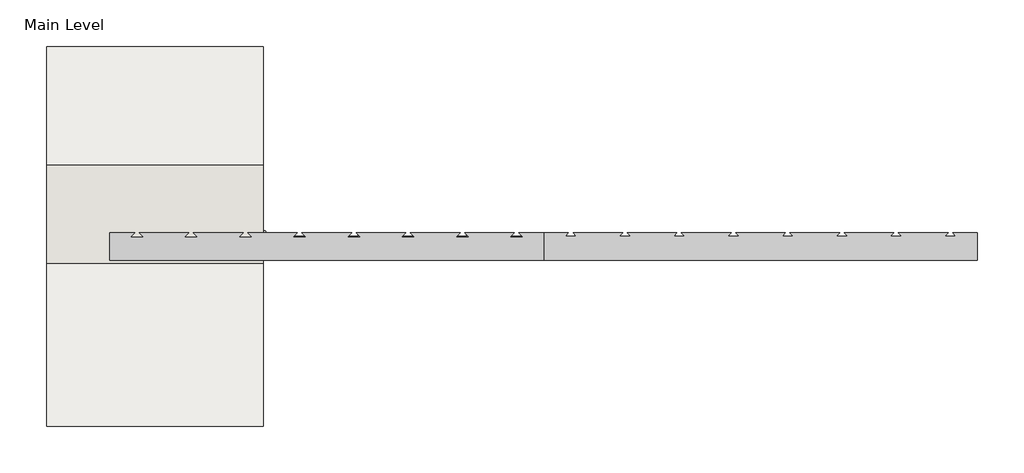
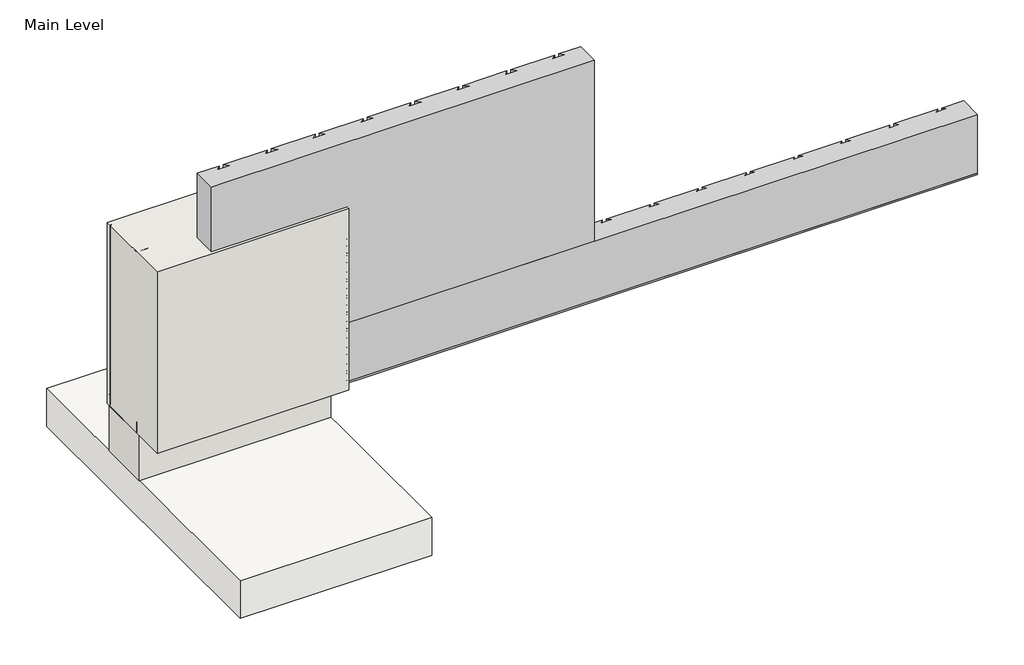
# One storey, incomplete: 20 proxies, 2 walls, 1 slab.
"""IFC4 building model written with IfcOpenShell, lengths in millimetres."""

from ifc_helpers import new_model, si_unit, frame, origin, origin_with_axes, place, context, project, spatial, polyline, outline, extrude, transform, mapped, element, save
from components import generic_models_31547c53, generic_models_0bbfdc8f, generic_models_1e1ad44f, generic_models_7dd17a53, generic_models_441de798, generic_models_9d0e7a2a, generic_models_a6b5edb7, generic_models_03ec6e0e, proxy_998bcb27, proxy_b027fc18, wood_blocking_c9818c35

model = new_model("IFC4")

# Units and contexts
model_context = context("Model", 3, world=origin())
ifc_project = project(units=[si_unit("LENGTHUNIT", "METRE", prefix="MILLI")], contexts=[model_context])

# Site, building, storey
site = spatial("IfcSite", under=ifc_project)
building = spatial("IfcBuilding", under=site)
storey = spatial("IfcBuildingStorey", under=building, Name="Main Level", Elevation=0.0)

# Proxies
placement = place(None, origin())
generic_models_shape = generic_models_31547c53(model_context)
element("IfcBuildingElementProxy", 1, Name="Durabond Generic Model Sealant Vent : Durabond Generic Model Sealant Vent", ObjectType="Durabond Generic Model Sealant Vent : Durabond Generic Model Sealant Vent", at=placement, inside=storey, context=model_context, shape_type="MappedRepresentation", body=[
    mapped(generic_models_shape, transform((26865.4101773, 546.8432813, 8.5594788), x_axis=(1.0, 0.0, 0.0), y_axis=(0.0, 0.08715574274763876, -0.9961946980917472), z_axis=(0.0, 0.9961946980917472, 0.08715574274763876))),
])
generic_models_2_shape = generic_models_0bbfdc8f(model_context)
generic_models_3_shape = generic_models_1e1ad44f(model_context)
generic_models_4_shape = generic_models_7dd17a53(model_context)
generic_models_5_shape = generic_models_441de798(model_context)
element("IfcBuildingElementProxy", 2, Name="CRAi Generic Model Mesh Piece Face Based : CRAi Generic Model Mesh Piece Face Based", ObjectType="CRAi Generic Model Mesh Piece Face Based : CRAi Generic Model Mesh Piece Face Based", at=placement, inside=storey, context=model_context, shape_type="MappedRepresentation", body=[
    mapped(generic_models_2_shape, transform((26933.6726773, 541.9066297, 261.6963215), x_axis=(-1.0, 0.0, 0.0), y_axis=(0.0, 0.0, -1.0), z_axis=(0.0, -1.0, 0.0))),
    mapped(generic_models_3_shape, transform((26933.6726773, 541.9066297, 261.6963215), x_axis=(-1.0, 0.0, 0.0), y_axis=(0.0, 0.0, -1.0), z_axis=(0.0, -1.0, 0.0))),
    mapped(generic_models_4_shape, transform((26933.6726773, 541.9066297, 261.6963215), x_axis=(-1.0, 0.0, 0.0), y_axis=(0.0, 0.0, -1.0), z_axis=(0.0, -1.0, 0.0))),
    mapped(generic_models_5_shape, transform((26933.6726773, 541.9066297, 261.6963215), x_axis=(-1.0, 0.0, 0.0), y_axis=(0.0, 0.0, -1.0), z_axis=(0.0, -1.0, 0.0))),
])
generic_models_6_shape = generic_models_9d0e7a2a(model_context)
element("IfcBuildingElementProxy", 3, Name="CRAi Generic Model Metal Stud Array : CRAi Generic Model Metal Stud Array", ObjectType="CRAi Generic Model Metal Stud Array : CRAi Generic Model Metal Stud Array", at=placement, inside=storey, context=model_context, shape_type="MappedRepresentation", body=[
    mapped(generic_models_6_shape, transform((26692.3726773, 726.0566297, 6.35), x_axis=(-1.0, 0.0, 0.0), y_axis=(0.0, -1.0, 0.0), z_axis=(0.0, 0.0, 1.0))),
])
generic_models_7_shape = generic_models_a6b5edb7(model_context)
element("IfcBuildingElementProxy", 4, Name="Durabond Generic Model Insulation Adhesive Flat : Durabond Generic Model Insulation Adhesive Flat", ObjectType="Durabond Generic Model Insulation Adhesive Flat : Durabond Generic Model Insulation Adhesive Flat", at=placement, inside=storey, context=model_context, shape_type="MappedRepresentation", body=[
    mapped(generic_models_7_shape, transform((26705.0726773, 627.6316297, 88.9), x_axis=(1.0, 0.0, 0.0), y_axis=(0.0, 1.0, 0.0), z_axis=(0.0, 0.0, 1.0))),
])
element("IfcBuildingElementProxy", 5, Name="Durabond Generic Model Insulation Adhesive Flat : Durabond Generic Model Insulation Adhesive Flat", ObjectType="Durabond Generic Model Insulation Adhesive Flat : Durabond Generic Model Insulation Adhesive Flat", at=placement, inside=storey, context=model_context, shape_type="MappedRepresentation", body=[
    mapped(generic_models_7_shape, transform((26781.2726773, 627.6316297, 88.9), x_axis=(1.0, 0.0, 0.0), y_axis=(0.0, 1.0, 0.0), z_axis=(0.0, 0.0, 1.0))),
])
element("IfcBuildingElementProxy", 6, Name="Durabond Generic Model Insulation Adhesive Flat : Durabond Generic Model Insulation Adhesive Flat", ObjectType="Durabond Generic Model Insulation Adhesive Flat : Durabond Generic Model Insulation Adhesive Flat", at=placement, inside=storey, context=model_context, shape_type="MappedRepresentation", body=[
    mapped(generic_models_7_shape, transform((26857.4726773, 627.6316297, 88.9), x_axis=(1.0, 0.0, 0.0), y_axis=(0.0, 1.0, 0.0), z_axis=(0.0, 0.0, 1.0))),
])
element("IfcBuildingElementProxy", 7, Name="Durabond Generic Model Insulation Adhesive Flat : Durabond Generic Model Insulation Adhesive Flat", ObjectType="Durabond Generic Model Insulation Adhesive Flat : Durabond Generic Model Insulation Adhesive Flat", at=placement, inside=storey, context=model_context, shape_type="MappedRepresentation", body=[
    mapped(generic_models_7_shape, transform((26933.6726773, 627.6316297, 88.9), x_axis=(1.0, 0.0, 0.0), y_axis=(0.0, 1.0, 0.0), z_axis=(0.0, 0.0, 1.0))),
])
element("IfcBuildingElementProxy", 8, Name="Durabond Generic Model Insulation Adhesive Flat : Durabond Generic Model Insulation Adhesive Flat", ObjectType="Durabond Generic Model Insulation Adhesive Flat : Durabond Generic Model Insulation Adhesive Flat", at=placement, inside=storey, context=model_context, shape_type="MappedRepresentation", body=[
    mapped(generic_models_7_shape, transform((27009.8726773, 627.6316297, 88.9), x_axis=(1.0, 0.0, 0.0), y_axis=(0.0, 1.0, 0.0), z_axis=(0.0, 0.0, 1.0))),
])
element("IfcBuildingElementProxy", 9, Name="Durabond Generic Model Insulation Adhesive Flat : Durabond Generic Model Insulation Adhesive Flat", ObjectType="Durabond Generic Model Insulation Adhesive Flat : Durabond Generic Model Insulation Adhesive Flat", at=placement, inside=storey, context=model_context, shape_type="MappedRepresentation", body=[
    mapped(generic_models_7_shape, transform((27086.0726773, 627.6316297, 88.9), x_axis=(1.0, 0.0, 0.0), y_axis=(0.0, 1.0, 0.0), z_axis=(0.0, 0.0, 1.0))),
])
generic_models_8_shape = generic_models_03ec6e0e(model_context)
element("IfcBuildingElementProxy", 10, Name="CRAi Generic Model Drywall Screw : CRAi Generic Model Drywall Screw", ObjectType="CRAi Generic Model Drywall Screw : CRAi Generic Model Drywall Screw", at=placement, inside=storey, context=model_context, shape_type="MappedRepresentation", body=[
    mapped(generic_models_8_shape, transform((26508.2226773, 633.9816297, 25.4), x_axis=(1.0, 0.0, 0.0), y_axis=(0.0, 0.0, 1.0), z_axis=(0.0, -1.0, 0.0))),
])
element("IfcBuildingElementProxy", 11, Name="CRAi Generic Model Drywall Screw : CRAi Generic Model Drywall Screw", ObjectType="CRAi Generic Model Drywall Screw : CRAi Generic Model Drywall Screw", at=placement, inside=storey, context=model_context, shape_type="MappedRepresentation", body=[
    mapped(generic_models_8_shape, transform((26508.2226773, 633.9816297, 215.9), x_axis=(1.0, 0.0, 0.0), y_axis=(0.0, 0.0, 1.0), z_axis=(0.0, -1.0, 0.0))),
])
element("IfcBuildingElementProxy", 12, Name="CRAi Generic Model Drywall Screw : CRAi Generic Model Drywall Screw", ObjectType="CRAi Generic Model Drywall Screw : CRAi Generic Model Drywall Screw", at=placement, inside=storey, context=model_context, shape_type="MappedRepresentation", body=[
    mapped(generic_models_8_shape, transform((26508.2226773, 633.9816297, 406.4), x_axis=(1.0, 0.0, 0.0), y_axis=(0.0, 0.0, 1.0), z_axis=(0.0, -1.0, 0.0))),
])
element("IfcBuildingElementProxy", 13, Name="CRAi Generic Model Drywall Screw : CRAi Generic Model Drywall Screw", ObjectType="CRAi Generic Model Drywall Screw : CRAi Generic Model Drywall Screw", at=placement, inside=storey, context=model_context, shape_type="MappedRepresentation", body=[
    mapped(generic_models_8_shape, transform((26508.2226773, 633.9816297, 596.9), x_axis=(1.0, 0.0, 0.0), y_axis=(0.0, 0.0, 1.0), z_axis=(0.0, -1.0, 0.0))),
])
element("IfcBuildingElementProxy", 14, Name="CRAi Generic Model Drywall Screw : CRAi Generic Model Drywall Screw", ObjectType="CRAi Generic Model Drywall Screw : CRAi Generic Model Drywall Screw", at=placement, inside=storey, context=model_context, shape_type="MappedRepresentation", body=[
    mapped(generic_models_8_shape, transform((26876.5226773, 633.9816297, 25.4), x_axis=(1.0, 0.0, 0.0), y_axis=(0.0, 0.0, 1.0), z_axis=(0.0, -1.0, 0.0))),
])
element("IfcBuildingElementProxy", 15, Name="CRAi Generic Model Drywall Screw : CRAi Generic Model Drywall Screw", ObjectType="CRAi Generic Model Drywall Screw : CRAi Generic Model Drywall Screw", at=placement, inside=storey, context=model_context, shape_type="MappedRepresentation", body=[
    mapped(generic_models_8_shape, transform((26876.5226773, 633.9816297, 215.9), x_axis=(1.0, 0.0, 0.0), y_axis=(0.0, 0.0, 1.0), z_axis=(0.0, -1.0, 0.0))),
])
element("IfcBuildingElementProxy", 16, Name="CRAi Generic Model Drywall Screw : CRAi Generic Model Drywall Screw", ObjectType="CRAi Generic Model Drywall Screw : CRAi Generic Model Drywall Screw", at=placement, inside=storey, context=model_context, shape_type="MappedRepresentation", body=[
    mapped(generic_models_8_shape, transform((26876.5226773, 633.9816297, 406.4), x_axis=(1.0, 0.0, 0.0), y_axis=(0.0, 0.0, 1.0), z_axis=(0.0, -1.0, 0.0))),
])
element("IfcBuildingElementProxy", 17, Name="CRAi Generic Model Drywall Screw : CRAi Generic Model Drywall Screw", ObjectType="CRAi Generic Model Drywall Screw : CRAi Generic Model Drywall Screw", at=placement, inside=storey, context=model_context, shape_type="MappedRepresentation", body=[
    mapped(generic_models_8_shape, transform((26876.5226773, 633.9816297, 596.9), x_axis=(1.0, 0.0, 0.0), y_axis=(0.0, 0.0, 1.0), z_axis=(0.0, -1.0, 0.0))),
])
proxy_shape = proxy_998bcb27(model_context)
element("IfcBuildingElementProxy", 18, Name="Durabond Generic Model Flexlite Insulation Board : 3\"", ObjectType="Durabond Generic Model Flexlite Insulation Board : 3\"", at=placement, inside=storey, context=model_context, shape_type="MappedRepresentation", body=[
    mapped(proxy_shape, transform((27276.5726773, 624.4566297, 523.392643), x_axis=(1.0, 0.0, 0.0), y_axis=(0.0, 0.0, 1.0), z_axis=(0.0, -1.0, 0.0))),
])
proxy_2_shape = proxy_b027fc18(model_context)
element("IfcBuildingElementProxy", 19, Name="Durabond Generic Model Flexlite Vent Board : 3\"", ObjectType="Durabond Generic Model Flexlite Vent Board : 3\"", at=placement, inside=storey, context=model_context, shape_type="MappedRepresentation", body=[
    mapped(proxy_2_shape, transform((27886.1726773, 624.4566297, 116.992643), x_axis=(1.0, 0.0, 0.0), y_axis=(0.0, 0.0, 1.0), z_axis=(0.0, -1.0, 0.0))),
])
wood_blocking_shape = wood_blocking_c9818c35(model_context)
element("IfcBuildingElementProxy", 20, Name="CRAi Generic Model Line Based Metal Framing Track : Wood Blocking", ObjectType="CRAi Generic Model Line Based Metal Framing Track : Wood Blocking", at=placement, inside=storey, context=model_context, shape_type="MappedRepresentation", body=[
    mapped(wood_blocking_shape, transform((26489.1726773, 649.8566297, 0.0), x_axis=(1.0, 0.0, 0.0), y_axis=(0.0, 1.0, 0.0), z_axis=(0.0, 0.0, 1.0))),
])

# Slab
element("IfcSlab", 21, ObjectType="CRAi Concrete Floor - 5\"", at=placement, inside=storey, context=model_context, shape_type="SweptSolid", body=[
    extrude(outline(polyline([(27098.7726773, 81.5316297), (26489.1726773, 81.5316297), (26489.1726773, 1148.3316297), (27098.7726773, 1148.3316297), (27098.7726773, 81.5316297)])), frame((0.0, 0.0, -279.4), z_axis=(0.0, 0.0, 1.0), x_axis=(1.0, 0.0, 0.0)), (0.0, 0.0, 1.0), 127.0),
])

# Walls
element("IfcWall", 22, ObjectType="189mm (7.5”) EIFS Field Applied on Mtl. Stud Layer - 50mm Grooved Insulation Board Metal Stud Wall (AirStop)", at=placement, inside=storey, context=model_context, shape_type="SweptSolid", body=[
    extrude(outline(polyline([(27098.7726773, 538.7316297), (26489.1726773, 538.7316297), (26489.1726773, 814.9566297), (27098.7726773, 814.9566297), (27098.7726773, 538.7316297)])), origin_with_axes(), (0.0, 0.0, 1.0), 609.6),
])
element("IfcWall", 23, ObjectType="Durabond 6\" Concrete Wall", at=placement, inside=storey, context=model_context, shape_type="SweptSolid", body=[
    extrude(outline(polyline([(27098.7726773, 637.1566297), (26489.1726773, 637.1566297), (26489.1726773, 802.2566297), (27098.7726773, 802.2566297), (27098.7726773, 637.1566297)])), frame((0.0, 0.0, -152.4), z_axis=(0.0, 0.0, 1.0), x_axis=(1.0, 0.0, 0.0)), (0.0, 0.0, 1.0), 152.4),
])

save(model, "model.ifc")
